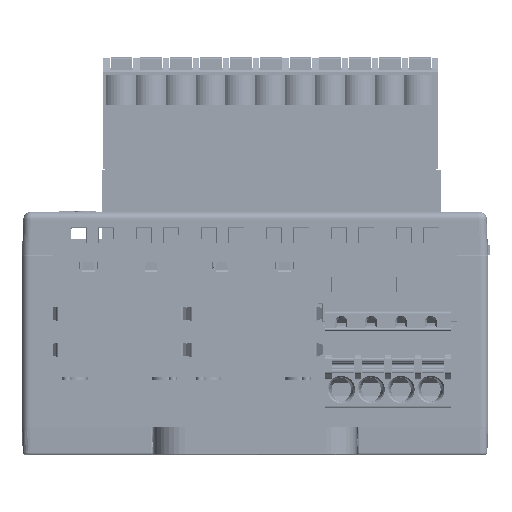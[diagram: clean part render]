
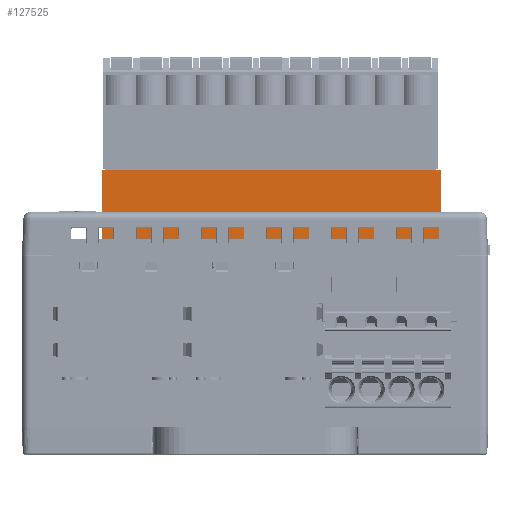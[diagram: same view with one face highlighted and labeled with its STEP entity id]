
A CAD part, front view. The second image highlights one B-rep face of the part: STEP entity #127525.
In plain terms, the highlighted planar face has unit normal (0, -1, 0).
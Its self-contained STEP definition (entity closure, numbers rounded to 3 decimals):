
#25030=DIRECTION('',(1.,0.,0.));
#25031=VECTOR('',#25030,43.3);
#25032=CARTESIAN_POINT('',(-19.55,-19.15,27.5));
#25033=LINE('',#25032,#25031);
#25458=DIRECTION('',(0.,0.,-1.));
#25459=VECTOR('',#25458,8.8);
#25460=CARTESIAN_POINT('',(23.75,-19.15,36.3));
#25461=LINE('',#25460,#25459);
#25466=DIRECTION('',(0.,0.,-1.));
#25467=VECTOR('',#25466,8.8);
#25468=CARTESIAN_POINT('',(-19.55,-19.15,36.3));
#25469=LINE('',#25468,#25467);
#25470=DIRECTION('',(-1.,0.,0.));
#25471=VECTOR('',#25470,43.3);
#25472=CARTESIAN_POINT('',(23.75,-19.15,36.3));
#25473=LINE('',#25472,#25471);
#71786=CARTESIAN_POINT('',(-19.55,-19.15,36.3));
#71788=VERTEX_POINT('',#71786);
#71792=CARTESIAN_POINT('',(23.75,-19.15,36.3));
#71793=VERTEX_POINT('',#71792);
#79776=CARTESIAN_POINT('',(-19.55,-19.15,27.5));
#79778=VERTEX_POINT('',#79776);
#79779=CARTESIAN_POINT('',(23.75,-19.15,27.5));
#79780=VERTEX_POINT('',#79779);
#127513=CARTESIAN_POINT('',(2.1,-19.15,31.7));
#127514=DIRECTION('',(0.,1.,0.));
#127515=DIRECTION('',(1.,0.,0.));
#127516=AXIS2_PLACEMENT_3D('',#127513,#127514,#127515);
#127517=PLANE('',#127516);
#127518=ORIENTED_EDGE('',*,*,#127433,.F.);
#127519=ORIENTED_EDGE('',*,*,#127459,.F.);
#127521=ORIENTED_EDGE('',*,*,#127520,.F.);
#127522=ORIENTED_EDGE('',*,*,#127498,.T.);
#127523=EDGE_LOOP('',(#127518,#127519,#127521,#127522));
#127524=FACE_OUTER_BOUND('',#127523,.F.);
#127525=ADVANCED_FACE('',(#127524),#127517,.F.);
#127433=EDGE_CURVE('',#79778,#79780,#25033,.T.);
#127459=EDGE_CURVE('',#71788,#79778,#25469,.T.);
#127498=EDGE_CURVE('',#71793,#79780,#25461,.T.);
#127520=EDGE_CURVE('',#71793,#71788,#25473,.T.);
